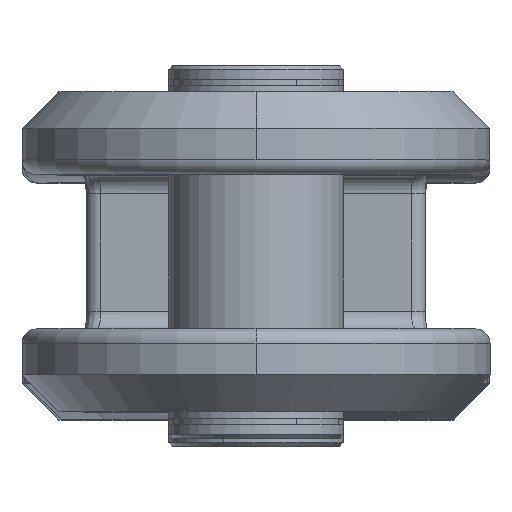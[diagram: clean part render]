
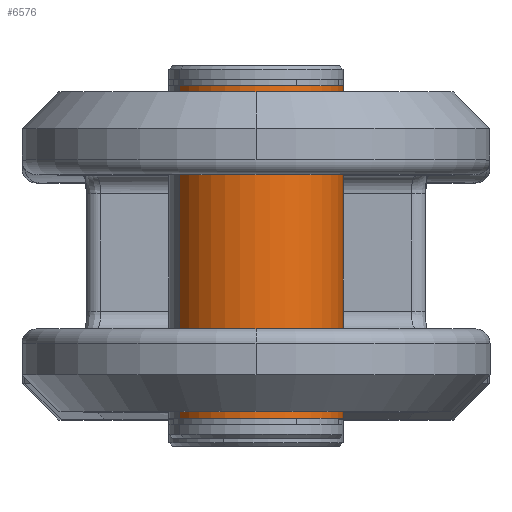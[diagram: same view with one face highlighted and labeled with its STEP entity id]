
A CAD part, top view. The second image highlights one B-rep face of the part: STEP entity #6576.
In plain terms, the highlighted cylindrical face has radius 47.5 mm (diameter 95 mm), a partial arc.
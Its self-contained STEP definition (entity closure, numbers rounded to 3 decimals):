
#178 = AXIS2_PLACEMENT_3D ( 'NONE', #3809, #3156, #5396 ) ;
#222 = VERTEX_POINT ( 'NONE', #5229 ) ;
#435 = DIRECTION ( 'NONE',  ( -1., 0., 0. ) ) ;
#573 = EDGE_CURVE ( 'NONE', #4076, #222, #3158, .T. ) ;
#689 = DIRECTION ( 'NONE',  ( -1., 0., 0. ) ) ;
#811 = ORIENTED_EDGE ( 'NONE', *, *, #573, .T. ) ;
#821 = EDGE_CURVE ( 'NONE', #4223, #1821, #2468, .T. ) ;
#1086 = AXIS2_PLACEMENT_3D ( 'NONE', #3949, #689, #4496 ) ;
#1087 = CYLINDRICAL_SURFACE ( 'NONE', #178, 47.5 ) ;
#1256 = FACE_OUTER_BOUND ( 'NONE', #3975, .T. ) ;
#1821 = VERTEX_POINT ( 'NONE', #3987 ) ;
#2087 = ORIENTED_EDGE ( 'NONE', *, *, #5083, .F. ) ;
#2468 = LINE ( 'NONE', #6570, #6515 ) ;
#2497 = ORIENTED_EDGE ( 'NONE', *, *, #821, .F. ) ;
#2544 = CARTESIAN_POINT ( 'NONE',  ( 192.1, 0., -47.5 ) ) ;
#2748 = DIRECTION ( 'NONE',  ( -1., 0., 0. ) ) ;
#2914 = DIRECTION ( 'NONE',  ( -1., 0., 0. ) ) ;
#3156 = DIRECTION ( 'NONE',  ( -1., 0., 0. ) ) ;
#3158 = LINE ( 'NONE', #3704, #4638 ) ;
#3494 = CIRCLE ( 'NONE', #3786, 47.5 ) ;
#3497 = ORIENTED_EDGE ( 'NONE', *, *, #5247, .T. ) ;
#3704 = CARTESIAN_POINT ( 'NONE',  ( 0., 0., 47.5 ) ) ;
#3786 = AXIS2_PLACEMENT_3D ( 'NONE', #5914, #2748, #6425 ) ;
#3809 = CARTESIAN_POINT ( 'NONE',  ( 0., 0., 0. ) ) ;
#3949 = CARTESIAN_POINT ( 'NONE',  ( 192.1, 0., 0. ) ) ;
#3975 = EDGE_LOOP ( 'NONE', ( #2497, #3497, #811, #2087 ) ) ;
#3987 = CARTESIAN_POINT ( 'NONE',  ( 10.9, 0., -47.5 ) ) ;
#4023 = CARTESIAN_POINT ( 'NONE',  ( 192.1, 0., 47.5 ) ) ;
#4076 = VERTEX_POINT ( 'NONE', #4023 ) ;
#4223 = VERTEX_POINT ( 'NONE', #2544 ) ;
#4496 = DIRECTION ( 'NONE',  ( 0., -1., 0. ) ) ;
#4638 = VECTOR ( 'NONE', #435, 1000. ) ;
#5083 = EDGE_CURVE ( 'NONE', #1821, #222, #3494, .T. ) ;
#5229 = CARTESIAN_POINT ( 'NONE',  ( 10.9, 0., 47.5 ) ) ;
#5247 = EDGE_CURVE ( 'NONE', #4223, #4076, #5773, .T. ) ;
#5396 = DIRECTION ( 'NONE',  ( 0., 0., 1. ) ) ;
#5773 = CIRCLE ( 'NONE', #1086, 47.5 ) ;
#5914 = CARTESIAN_POINT ( 'NONE',  ( 10.9, 0., 0. ) ) ;
#6425 = DIRECTION ( 'NONE',  ( 0., -1., 0. ) ) ;
#6515 = VECTOR ( 'NONE', #2914, 1000. ) ;
#6570 = CARTESIAN_POINT ( 'NONE',  ( 0., 0., -47.5 ) ) ;
#6576 = ADVANCED_FACE ( 'NONE', ( #1256 ), #1087, .T. ) ;
